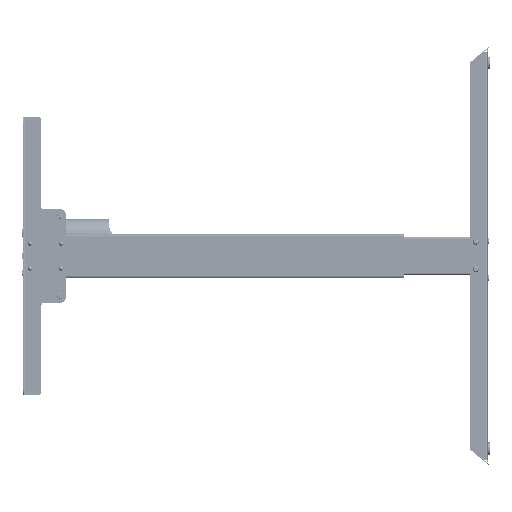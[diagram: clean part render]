
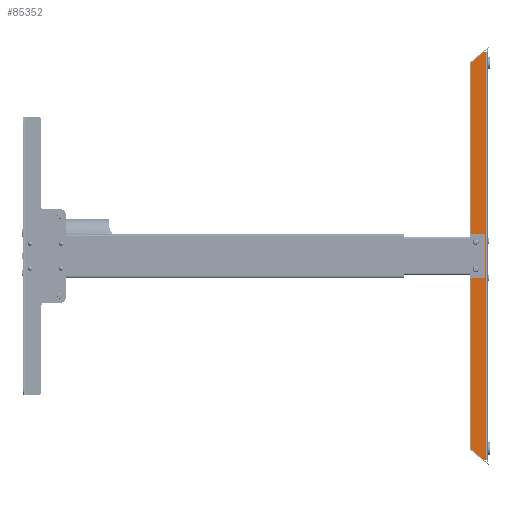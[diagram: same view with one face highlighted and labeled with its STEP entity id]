
A CAD part, left-side view. The second image highlights one B-rep face of the part: STEP entity #85352.
In plain terms, the highlighted planar face has unit normal (-1, 0, 0).
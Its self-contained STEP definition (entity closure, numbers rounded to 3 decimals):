
#423 = AXIS2_PLACEMENT_3D ( 'NONE', #126251, #167462, #140361 ) ;
#2124 = VERTEX_POINT ( 'NONE', #125870 ) ;
#5879 = EDGE_CURVE ( 'NONE', #143498, #2124, #30025, .T. ) ;
#8378 = EDGE_CURVE ( 'NONE', #162723, #2124, #25224, .T. ) ;
#8876 = DIRECTION ( 'NONE',  ( 0., 0., 1. ) ) ;
#11531 = VERTEX_POINT ( 'NONE', #23614 ) ;
#11775 = CARTESIAN_POINT ( 'NONE',  ( -21.5, 5.325, 329.032 ) ) ;
#11811 = DIRECTION ( 'NONE',  ( -1., 0., 0. ) ) ;
#12554 = LINE ( 'NONE', #77640, #166823 ) ;
#15534 = DIRECTION ( 'NONE',  ( 0., 0.766, -0.643 ) ) ;
#16276 = EDGE_CURVE ( 'NONE', #170159, #170159, #182991, .T. ) ;
#17727 = DIRECTION ( 'NONE',  ( 0., 0., -1. ) ) ;
#17788 = CARTESIAN_POINT ( 'NONE',  ( -21.5, 24.928, 312.583 ) ) ;
#22290 = CARTESIAN_POINT ( 'NONE',  ( -21.5, 1., -329.5 ) ) ;
#22733 = CARTESIAN_POINT ( 'NONE',  ( -21.5, 4.039, 329.5 ) ) ;
#23474 = CARTESIAN_POINT ( 'NONE',  ( -21.5, 4.039, -327.5 ) ) ;
#23614 = CARTESIAN_POINT ( 'NONE',  ( -21.5, 18., -24. ) ) ;
#23806 = ORIENTED_EDGE ( 'NONE', *, *, #110830, .F. ) ;
#25224 = LINE ( 'NONE', #132470, #165011 ) ;
#26844 = CARTESIAN_POINT ( 'NONE',  ( -21.5, 23., 310.284 ) ) ;
#27799 = VECTOR ( 'NONE', #17727, 1000. ) ;
#28551 = EDGE_LOOP ( 'NONE', ( #118490, #101056, #112822, #112119, #191101, #117905, #23806, #121724, #119694, #65120 ) ) ;
#30025 = CIRCLE ( 'NONE', #180522, 2. ) ;
#30068 = EDGE_CURVE ( 'NONE', #64227, #38154, #196237, .T. ) ;
#38154 = VERTEX_POINT ( 'NONE', #194583 ) ;
#38937 = CARTESIAN_POINT ( 'NONE',  ( -21.5, 1., 333.5 ) ) ;
#39567 = CARTESIAN_POINT ( 'NONE',  ( -21.5, 18., -21.5 ) ) ;
#43448 = AXIS2_PLACEMENT_3D ( 'NONE', #39567, #97811, #176055 ) ;
#47702 = EDGE_CURVE ( 'NONE', #11531, #11531, #49916, .T. ) ;
#49495 = DIRECTION ( 'NONE',  ( -1., 0., 0. ) ) ;
#49916 = CIRCLE ( 'NONE', #43448, 2.5 ) ;
#53239 = DIRECTION ( 'NONE',  ( 0., 0., 1. ) ) ;
#54248 = VECTOR ( 'NONE', #158384, 1000. ) ;
#55249 = EDGE_CURVE ( 'NONE', #38154, #162723, #100131, .T. ) ;
#55590 = CARTESIAN_POINT ( 'NONE',  ( -21.5, 5.325, -329.032 ) ) ;
#55630 = VERTEX_POINT ( 'NONE', #17788 ) ;
#61515 = FACE_BOUND ( 'NONE', #158338, .T. ) ;
#62567 = AXIS2_PLACEMENT_3D ( 'NONE', #129481, #190759, #53239 ) ;
#64227 = VERTEX_POINT ( 'NONE', #22733 ) ;
#65120 = ORIENTED_EDGE ( 'NONE', *, *, #55249, .F. ) ;
#72256 = DIRECTION ( 'NONE',  ( 0., 1., 0. ) ) ;
#72286 = VERTEX_POINT ( 'NONE', #11775 ) ;
#77640 = CARTESIAN_POINT ( 'NONE',  ( -21.5, 0., 333.5 ) ) ;
#78899 = AXIS2_PLACEMENT_3D ( 'NONE', #26844, #11811, #8876 ) ;
#82110 = CARTESIAN_POINT ( 'NONE',  ( -21.5, 328.433, -57.912 ) ) ;
#85352 = ADVANCED_FACE ( 'NONE', ( #61515, #122742, #125726 ), #190949, .T. ) ;
#85773 = CARTESIAN_POINT ( 'NONE',  ( -21.5, 26., -310.284 ) ) ;
#89804 = DIRECTION ( 'NONE',  ( 0., -1., 0. ) ) ;
#94643 = CARTESIAN_POINT ( 'NONE',  ( -21.5, 0., 333.5 ) ) ;
#97109 = CARTESIAN_POINT ( 'NONE',  ( -21.5, 23., -310.284 ) ) ;
#97811 = DIRECTION ( 'NONE',  ( 1., 0., 0. ) ) ;
#97848 = CIRCLE ( 'NONE', #62567, 2. ) ;
#98726 = DIRECTION ( 'NONE',  ( -1., 0., 0. ) ) ;
#98851 = ORIENTED_EDGE ( 'NONE', *, *, #47702, .T. ) ;
#100131 = LINE ( 'NONE', #38937, #131109 ) ;
#100518 = VERTEX_POINT ( 'NONE', #147910 ) ;
#101056 = ORIENTED_EDGE ( 'NONE', *, *, #180402, .T. ) ;
#110830 = EDGE_CURVE ( 'NONE', #143498, #166768, #141346, .T. ) ;
#111605 = EDGE_CURVE ( 'NONE', #72286, #55630, #12554, .T. ) ;
#112119 = ORIENTED_EDGE ( 'NONE', *, *, #193621, .T. ) ;
#112632 = DIRECTION ( 'NONE',  ( 0., 0., 1. ) ) ;
#112822 = ORIENTED_EDGE ( 'NONE', *, *, #111605, .T. ) ;
#117905 = ORIENTED_EDGE ( 'NONE', *, *, #174841, .T. ) ;
#118490 = ORIENTED_EDGE ( 'NONE', *, *, #30068, .F. ) ;
#119694 = ORIENTED_EDGE ( 'NONE', *, *, #8378, .F. ) ;
#119899 = CARTESIAN_POINT ( 'NONE',  ( -21.5, 26., 329.5 ) ) ;
#121724 = ORIENTED_EDGE ( 'NONE', *, *, #5879, .T. ) ;
#122474 = CIRCLE ( 'NONE', #148127, 3. ) ;
#122742 = FACE_BOUND ( 'NONE', #129998, .T. ) ;
#125726 = FACE_OUTER_BOUND ( 'NONE', #28551, .T. ) ;
#125870 = CARTESIAN_POINT ( 'NONE',  ( -21.5, 4.039, -329.5 ) ) ;
#126251 = CARTESIAN_POINT ( 'NONE',  ( -21.5, 18., 22.5 ) ) ;
#127973 = CARTESIAN_POINT ( 'NONE',  ( -21.5, 26., 333.5 ) ) ;
#129481 = CARTESIAN_POINT ( 'NONE',  ( -21.5, 4.039, 327.5 ) ) ;
#129998 = EDGE_LOOP ( 'NONE', ( #98851 ) ) ;
#131109 = VECTOR ( 'NONE', #159387, 1000. ) ;
#132470 = CARTESIAN_POINT ( 'NONE',  ( -21.5, 0., -329.5 ) ) ;
#137570 = ORIENTED_EDGE ( 'NONE', *, *, #16276, .T. ) ;
#140361 = DIRECTION ( 'NONE',  ( 0., 0., -1. ) ) ;
#141346 = LINE ( 'NONE', #82110, #54248 ) ;
#143498 = VERTEX_POINT ( 'NONE', #55590 ) ;
#145229 = DIRECTION ( 'NONE',  ( -1., 0., 0. ) ) ;
#146040 = CIRCLE ( 'NONE', #78899, 3. ) ;
#147910 = CARTESIAN_POINT ( 'NONE',  ( -21.5, 26., 310.284 ) ) ;
#148127 = AXIS2_PLACEMENT_3D ( 'NONE', #97109, #145229, #174377 ) ;
#151910 = AXIS2_PLACEMENT_3D ( 'NONE', #94643, #49495, #112632 ) ;
#155010 = VERTEX_POINT ( 'NONE', #85773 ) ;
#156120 = CARTESIAN_POINT ( 'NONE',  ( -21.5, 18., 20. ) ) ;
#158338 = EDGE_LOOP ( 'NONE', ( #137570 ) ) ;
#158384 = DIRECTION ( 'NONE',  ( 0., 0.766, 0.643 ) ) ;
#159387 = DIRECTION ( 'NONE',  ( 0., 0., -1. ) ) ;
#162723 = VERTEX_POINT ( 'NONE', #22290 ) ;
#165011 = VECTOR ( 'NONE', #72256, 1000. ) ;
#166768 = VERTEX_POINT ( 'NONE', #174347 ) ;
#166823 = VECTOR ( 'NONE', #15534, 1000. ) ;
#167462 = DIRECTION ( 'NONE',  ( 1., 0., 0. ) ) ;
#170159 = VERTEX_POINT ( 'NONE', #156120 ) ;
#171174 = LINE ( 'NONE', #127973, #27799 ) ;
#174347 = CARTESIAN_POINT ( 'NONE',  ( -21.5, 24.928, -312.583 ) ) ;
#174377 = DIRECTION ( 'NONE',  ( 0., 0., 1. ) ) ;
#174841 = EDGE_CURVE ( 'NONE', #155010, #166768, #122474, .T. ) ;
#174979 = DIRECTION ( 'NONE',  ( 0., 0., 1. ) ) ;
#176055 = DIRECTION ( 'NONE',  ( 0., 0., -1. ) ) ;
#180402 = EDGE_CURVE ( 'NONE', #64227, #72286, #97848, .T. ) ;
#180522 = AXIS2_PLACEMENT_3D ( 'NONE', #23474, #98726, #174979 ) ;
#182991 = CIRCLE ( 'NONE', #423, 2.5 ) ;
#183983 = VECTOR ( 'NONE', #89804, 1000. ) ;
#190759 = DIRECTION ( 'NONE',  ( -1., 0., 0. ) ) ;
#190949 = PLANE ( 'NONE',  #151910 ) ;
#191101 = ORIENTED_EDGE ( 'NONE', *, *, #192510, .T. ) ;
#192510 = EDGE_CURVE ( 'NONE', #100518, #155010, #171174, .T. ) ;
#193621 = EDGE_CURVE ( 'NONE', #55630, #100518, #146040, .T. ) ;
#194583 = CARTESIAN_POINT ( 'NONE',  ( -21.5, 1., 329.5 ) ) ;
#196237 = LINE ( 'NONE', #119899, #183983 ) ;
